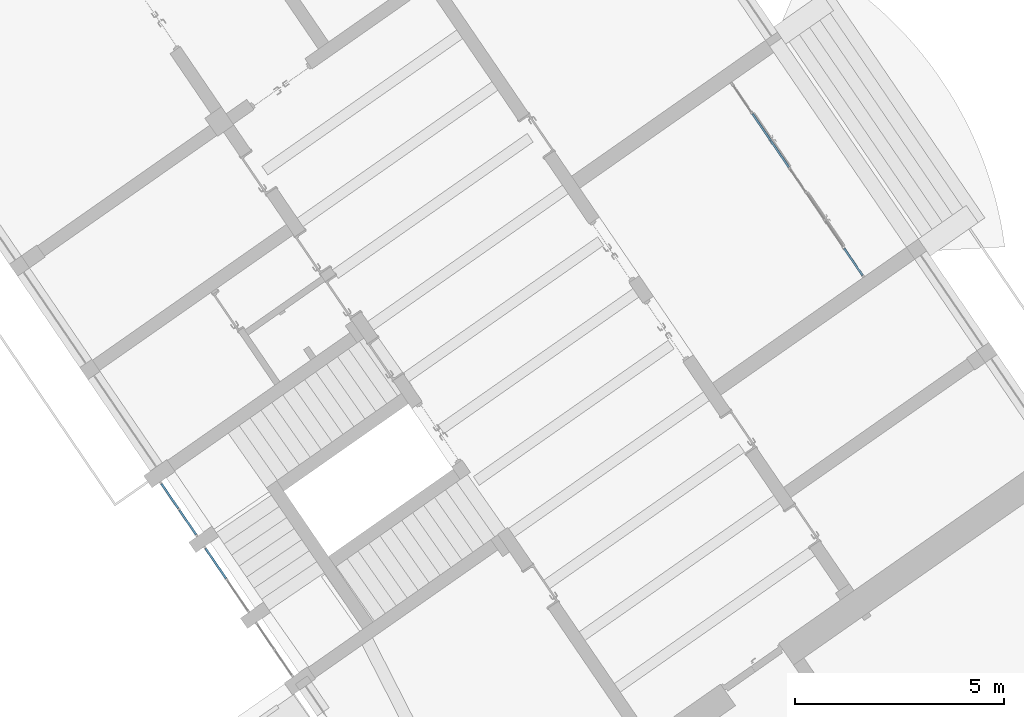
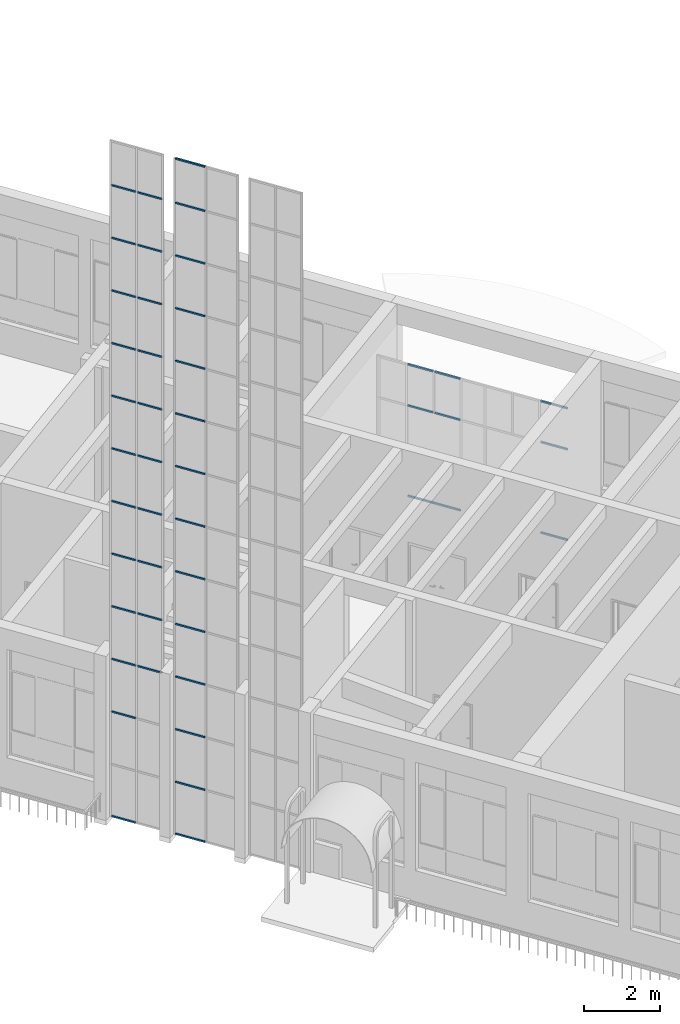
# One storey, part 32 of 157: 45 members, 3 elements without a shape of their own.
"""IFC2X3 building model written with IfcOpenShell, lengths in millimetres."""

from ifc_helpers import new_model, entity, si_unit, converted_unit, derived_unit, direction, frame, origin, origin_2d_with_axis, place, context, subcontext, project, spatial, rectangle, extrude, source, transform, mapped, material, type_object, type_shapes, element, aggregate, save


model = new_model("IFC2X3")

# Units and contexts
model_context = context("Model", 3, precision=0.01, world=origin(), true_north=direction((6.123031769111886e-17, 1.0)))
body_context = subcontext(model_context, "Body", "Model", "MODEL_VIEW")
ifc_project = project(units=[si_unit("LENGTHUNIT", "METRE", prefix="MILLI"), si_unit("AREAUNIT", "SQUARE_METRE"), si_unit("VOLUMEUNIT", "CUBIC_METRE"), converted_unit("PLANEANGLEUNIT", "DEGREE", entity("IfcRatioMeasure", 0.017453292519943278), si_unit("PLANEANGLEUNIT", "RADIAN"), dimensions=[0, 0, 0, 0, 0, 0, 0]), si_unit("MASSUNIT", "GRAM", prefix="KILO"), derived_unit("MASSDENSITYUNIT", [(si_unit("MASSUNIT", "GRAM", prefix="KILO"), 1), (si_unit("LENGTHUNIT", "METRE"), -3)]), derived_unit("MOMENTOFINERTIAUNIT", [(si_unit("LENGTHUNIT", "METRE"), 4)]), si_unit("TIMEUNIT", "SECOND"), si_unit("FREQUENCYUNIT", "HERTZ"), si_unit("THERMODYNAMICTEMPERATUREUNIT", "DEGREE_CELSIUS"), derived_unit("THERMALTRANSMITTANCEUNIT", [(si_unit("MASSUNIT", "GRAM", prefix="KILO"), 1), (si_unit("THERMODYNAMICTEMPERATUREUNIT", "KELVIN"), -1), (si_unit("TIMEUNIT", "SECOND"), -3)]), derived_unit("THERMALCONDUCTANCEUNIT", [(si_unit("MASSUNIT", "GRAM", prefix="KILO"), 1), (si_unit("LENGTHUNIT", "METRE"), 1), (si_unit("THERMODYNAMICTEMPERATUREUNIT", "KELVIN"), -1), (si_unit("TIMEUNIT", "SECOND"), -3)]), derived_unit("VOLUMETRICFLOWRATEUNIT", [(si_unit("LENGTHUNIT", "METRE"), 3), (si_unit("TIMEUNIT", "SECOND"), -1)]), derived_unit("MASSFLOWRATEUNIT", [(si_unit("MASSUNIT", "GRAM", prefix="KILO"), 1), (si_unit("TIMEUNIT", "SECOND"), -1)]), derived_unit("ROTATIONALFREQUENCYUNIT", [(si_unit("TIMEUNIT", "SECOND"), -1)]), si_unit("ELECTRICCURRENTUNIT", "AMPERE"), si_unit("ELECTRICVOLTAGEUNIT", "VOLT"), si_unit("POWERUNIT", "WATT"), converted_unit("FORCEUNIT", "KIP", entity("IfcRatioMeasure", 2.088543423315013e-05), si_unit("FORCEUNIT", "NEWTON"), dimensions=[1, 1, -2, 0, 0, 0, 0]), si_unit("ILLUMINANCEUNIT", "LUX"), si_unit("LUMINOUSFLUXUNIT", "LUMEN"), si_unit("LUMINOUSINTENSITYUNIT", "CANDELA"), derived_unit("USERDEFINED", [(si_unit("MASSUNIT", "GRAM", prefix="KILO"), -1), (si_unit("LENGTHUNIT", "METRE"), -2), (si_unit("TIMEUNIT", "SECOND"), 3), (si_unit("LUMINOUSFLUXUNIT", "LUMEN"), 1)]), derived_unit("USERDEFINED", [(si_unit("MASSUNIT", "GRAM", prefix="KILO"), 1), (si_unit("LENGTHUNIT", "METRE"), 3), (si_unit("TIMEUNIT", "SECOND"), -3), (si_unit("ELECTRICCURRENTUNIT", "AMPERE"), -2)]), derived_unit("USERDEFINED", [(si_unit("LENGTHUNIT", "METRE"), 2), (si_unit("TIMEUNIT", "SECOND"), -2)]), derived_unit("SOUNDPOWERUNIT", [(si_unit("MASSUNIT", "GRAM", prefix="KILO"), 1), (si_unit("LENGTHUNIT", "METRE"), 2), (si_unit("TIMEUNIT", "SECOND"), -3)]), derived_unit("SOUNDPRESSUREUNIT", [(si_unit("MASSUNIT", "GRAM", prefix="KILO"), 1), (si_unit("LENGTHUNIT", "METRE"), -1), (si_unit("TIMEUNIT", "SECOND"), -2)]), derived_unit("LINEARVELOCITYUNIT", [(si_unit("LENGTHUNIT", "METRE"), 1), (si_unit("TIMEUNIT", "SECOND"), -1)]), si_unit("PRESSUREUNIT", "PASCAL"), derived_unit("USERDEFINED", [(si_unit("LENGTHUNIT", "METRE"), -2), (si_unit("MASSUNIT", "GRAM", prefix="KILO"), 1), (si_unit("TIMEUNIT", "SECOND"), -2)]), derived_unit("LINEARFORCEUNIT", [(si_unit("MASSUNIT", "GRAM", prefix="KILO"), 1), (si_unit("LENGTHUNIT", "METRE"), 1), (si_unit("TIMEUNIT", "SECOND"), -2), (si_unit("LENGTHUNIT", "METRE"), -1)]), derived_unit("PLANARFORCEUNIT", [(si_unit("MASSUNIT", "GRAM", prefix="KILO"), 1), (si_unit("LENGTHUNIT", "METRE"), 1), (si_unit("TIMEUNIT", "SECOND"), -2), (si_unit("LENGTHUNIT", "METRE"), -2)]), derived_unit("SPECIFICHEATCAPACITYUNIT", [(si_unit("LENGTHUNIT", "METRE"), 2), (si_unit("TIMEUNIT", "SECOND"), -2), (si_unit("THERMODYNAMICTEMPERATUREUNIT", "KELVIN"), -1)]), derived_unit("VAPORPERMEABILITYUNIT", [(si_unit("TIMEUNIT", "SECOND"), 1), (si_unit("LENGTHUNIT", "METRE"), -1)]), derived_unit("DYNAMICVISCOSITYUNIT", [(si_unit("MASSUNIT", "GRAM", prefix="KILO"), 1), (si_unit("LENGTHUNIT", "METRE"), -1), (si_unit("TIMEUNIT", "SECOND"), -1)]), derived_unit("THERMALEXPANSIONCOEFFICIENTUNIT", [(si_unit("THERMODYNAMICTEMPERATUREUNIT", "KELVIN"), -1)])], contexts=[model_context])

# Site, building, storey
site_placement = place(None, frame((0.0, 0.0, 0.0), z_axis=(0.0, 0.0, 1.0), x_axis=(0.8191520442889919, 0.5735764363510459, 0.0)))
site = spatial("IfcSite", under=ifc_project, at=site_placement, Name="Default", CompositionType="ELEMENT")
building_placement = place(site_placement, origin())
building = spatial("IfcBuilding", under=site, at=building_placement, CompositionType="ELEMENT")
storey_placement = place(building_placement, origin())
storey = spatial("IfcBuildingStorey", under=building, at=storey_placement, Name="1.EG +0.00", CompositionType="ELEMENT", Elevation=-4.331468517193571e-12)

# Curtain wall, members
curtain_wall_type_1 = type_object("IfcCurtainWallType", Name="Curtain Wall:Curtain_Wall_CJC 2", PredefinedType="NOTDEFINED")
curtain_wall_1_placement = place(storey_placement, origin())
curtain_wall_1 = element("IfcCurtainWall", 1, at=curtain_wall_1_placement, inside=storey, type_object=curtain_wall_type_1, Name="Curtain Wall:Curtain_Wall_CJC 2", ObjectType="Curtain Wall:Curtain_Wall_CJC 2")
ifc_material = material(Name="Aluminium")
member_type_1 = type_object("IfcMemberType", Name="Rectangular Mullion:5x5", PredefinedType="MULLION", material=ifc_material)
shared_shape_1 = source(origin(), body_context, "Body", "SweptSolid", [
    extrude(rectangle(XDim=50.000000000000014, YDim=50.0, at=origin_2d_with_axis()), frame((-25.0, 0.0, -875.0769794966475), z_axis=(0.0, 0.0, 1.0), x_axis=(0.0, -1.0, 0.0)), (0.0, 0.0, 1.0), 875.0769794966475),
])
type_shapes(member_type_1, [shared_shape_1])
member_1_placement = place(curtain_wall_1_placement, frame((-223075.04081951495, 113595.23599748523, 21850.0), z_axis=(0.012729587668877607, 0.9999189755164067, 0.0), x_axis=(0.0, 0.0, 1.0)))
member_1 = element("IfcMember", 2, at=member_1_placement, type_object=member_type_1, material=ifc_material, Name="Rectangular Mullion:5x5", ObjectType="Rectangular Mullion:5x5", context=body_context, shape_type="MappedRepresentation", body=[
    mapped(shared_shape_1, transform((0.0, 0.0, 0.0), scale=1.0)),
])
member_type_2 = type_object("IfcMemberType", Name="Rectangular Mullion:5x5", PredefinedType="MULLION", material=ifc_material)
shared_shape_2 = source(origin(), body_context, "Body", "SweptSolid", [
    extrude(rectangle(XDim=50.0, YDim=50.0, at=origin_2d_with_axis()), frame((0.0, 0.0, -875.0769794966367), z_axis=(0.0, 0.0, 1.0), x_axis=(0.0, -1.0, 0.0)), (0.0, 0.0, 1.0), 875.0769794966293),
])
type_shapes(member_type_2, [shared_shape_2])
member_2_placement = place(curtain_wall_1_placement, frame((-223075.04081951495, 113595.23599748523, 1700.0), z_axis=(0.012729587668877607, 0.9999189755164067, 0.0), x_axis=(0.0, 0.0, 1.0)))
member_2 = element("IfcMember", 3, at=member_2_placement, type_object=member_type_2, material=ifc_material, Name="Rectangular Mullion:5x5", ObjectType="Rectangular Mullion:5x5", context=body_context, shape_type="MappedRepresentation", body=[
    mapped(shared_shape_2, transform((0.0, 0.0, 0.0), scale=1.0)),
])
member_3_placement = place(curtain_wall_1_placement, frame((-223075.04081951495, 113595.23599748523, 3400.0), z_axis=(0.012729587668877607, 0.9999189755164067, 0.0), x_axis=(0.0, 0.0, 1.0)))
member_3 = element("IfcMember", 4, at=member_3_placement, type_object=member_type_2, material=ifc_material, Name="Rectangular Mullion:5x5", ObjectType="Rectangular Mullion:5x5", context=body_context, shape_type="MappedRepresentation", body=[
    mapped(shared_shape_2, transform((0.0, 0.0, 0.0), scale=1.0)),
])
member_4_placement = place(curtain_wall_1_placement, frame((-223075.04081951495, 113595.23599748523, 5100.0), z_axis=(0.012729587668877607, 0.9999189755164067, 0.0), x_axis=(0.0, 0.0, 1.0)))
member_4 = element("IfcMember", 5, at=member_4_placement, type_object=member_type_2, material=ifc_material, Name="Rectangular Mullion:5x5", ObjectType="Rectangular Mullion:5x5", context=body_context, shape_type="MappedRepresentation", body=[
    mapped(shared_shape_2, transform((0.0, 0.0, 0.0), scale=1.0)),
])
member_5_placement = place(curtain_wall_1_placement, frame((-223075.04081951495, 113595.23599748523, 6800.0), z_axis=(0.012729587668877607, 0.9999189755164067, 0.0), x_axis=(0.0, 0.0, 1.0)))
member_5 = element("IfcMember", 6, at=member_5_placement, type_object=member_type_2, material=ifc_material, Name="Rectangular Mullion:5x5", ObjectType="Rectangular Mullion:5x5", context=body_context, shape_type="MappedRepresentation", body=[
    mapped(shared_shape_2, transform((0.0, 0.0, 0.0), scale=1.0)),
])
member_6_placement = place(curtain_wall_1_placement, frame((-223075.04081951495, 113595.23599748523, 8500.0), z_axis=(0.012729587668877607, 0.9999189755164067, 0.0), x_axis=(0.0, 0.0, 1.0)))
member_6 = element("IfcMember", 7, at=member_6_placement, type_object=member_type_2, material=ifc_material, Name="Rectangular Mullion:5x5", ObjectType="Rectangular Mullion:5x5", context=body_context, shape_type="MappedRepresentation", body=[
    mapped(shared_shape_2, transform((0.0, 0.0, 0.0), scale=1.0)),
])
member_7_placement = place(curtain_wall_1_placement, frame((-223075.04081951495, 113595.23599748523, 10200.0), z_axis=(0.012729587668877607, 0.9999189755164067, 0.0), x_axis=(0.0, 0.0, 1.0)))
member_7 = element("IfcMember", 8, at=member_7_placement, type_object=member_type_2, material=ifc_material, Name="Rectangular Mullion:5x5", ObjectType="Rectangular Mullion:5x5", context=body_context, shape_type="MappedRepresentation", body=[
    mapped(shared_shape_2, transform((0.0, 0.0, 0.0), scale=1.0)),
])
member_8_placement = place(curtain_wall_1_placement, frame((-223075.04081951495, 113595.23599748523, 11900.0), z_axis=(0.012729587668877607, 0.9999189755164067, 0.0), x_axis=(0.0, 0.0, 1.0)))
member_8 = element("IfcMember", 9, at=member_8_placement, type_object=member_type_2, material=ifc_material, Name="Rectangular Mullion:5x5", ObjectType="Rectangular Mullion:5x5", context=body_context, shape_type="MappedRepresentation", body=[
    mapped(shared_shape_2, transform((0.0, 0.0, 0.0), scale=1.0)),
])
member_9_placement = place(curtain_wall_1_placement, frame((-223075.04081951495, 113595.23599748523, 13600.0), z_axis=(0.012729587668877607, 0.9999189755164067, 0.0), x_axis=(0.0, 0.0, 1.0)))
member_9 = element("IfcMember", 10, at=member_9_placement, type_object=member_type_2, material=ifc_material, Name="Rectangular Mullion:5x5", ObjectType="Rectangular Mullion:5x5", context=body_context, shape_type="MappedRepresentation", body=[
    mapped(shared_shape_2, transform((0.0, 0.0, 0.0), scale=1.0)),
])
member_10_placement = place(curtain_wall_1_placement, frame((-223075.04081951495, 113595.23599748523, 15300.0), z_axis=(0.012729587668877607, 0.9999189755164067, 0.0), x_axis=(0.0, 0.0, 1.0)))
member_10 = element("IfcMember", 11, at=member_10_placement, type_object=member_type_2, material=ifc_material, Name="Rectangular Mullion:5x5", ObjectType="Rectangular Mullion:5x5", context=body_context, shape_type="MappedRepresentation", body=[
    mapped(shared_shape_2, transform((0.0, 0.0, 0.0), scale=1.0)),
])
member_11_placement = place(curtain_wall_1_placement, frame((-223075.04081951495, 113595.23599748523, 17000.0), z_axis=(0.012729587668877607, 0.9999189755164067, 0.0), x_axis=(0.0, 0.0, 1.0)))
member_11 = element("IfcMember", 12, at=member_11_placement, type_object=member_type_2, material=ifc_material, Name="Rectangular Mullion:5x5", ObjectType="Rectangular Mullion:5x5", context=body_context, shape_type="MappedRepresentation", body=[
    mapped(shared_shape_2, transform((0.0, 0.0, 0.0), scale=1.0)),
])
member_12_placement = place(curtain_wall_1_placement, frame((-223075.04081951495, 113595.23599748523, 18700.0), z_axis=(0.012729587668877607, 0.9999189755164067, 0.0), x_axis=(0.0, 0.0, 1.0)))
member_12 = element("IfcMember", 13, at=member_12_placement, type_object=member_type_2, material=ifc_material, Name="Rectangular Mullion:5x5", ObjectType="Rectangular Mullion:5x5", context=body_context, shape_type="MappedRepresentation", body=[
    mapped(shared_shape_2, transform((0.0, 0.0, 0.0), scale=1.0)),
])
member_13_placement = place(curtain_wall_1_placement, frame((-223075.04081951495, 113595.23599748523, 20400.0), z_axis=(0.012729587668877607, 0.9999189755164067, 0.0), x_axis=(0.0, 0.0, 1.0)))
member_13 = element("IfcMember", 14, at=member_13_placement, type_object=member_type_2, material=ifc_material, Name="Rectangular Mullion:5x5", ObjectType="Rectangular Mullion:5x5", context=body_context, shape_type="MappedRepresentation", body=[
    mapped(shared_shape_2, transform((0.0, 0.0, 0.0), scale=1.0)),
])
member_type_3 = type_object("IfcMemberType", Name="Rectangular Mullion:5x5", PredefinedType="MULLION", material=ifc_material)
shared_shape_3 = source(origin(), body_context, "Body", "SweptSolid", [
    extrude(rectangle(XDim=49.99999999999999, YDim=50.0, at=origin_2d_with_axis()), frame((-25.0, 0.0, -875.0769794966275), z_axis=(0.0, 0.0, 1.0), x_axis=(0.0, -1.0, 0.0)), (0.0, 0.0, 1.0), 875.0769794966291),
])
type_shapes(member_type_3, [shared_shape_3])
member_14_placement = place(curtain_wall_1_placement, frame((-223086.18018864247, 112720.22992064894, 0.0), z_axis=(-0.012729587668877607, -0.9999189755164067, 0.0), x_axis=(0.0, 0.0, -1.0)))
member_14 = element("IfcMember", 15, at=member_14_placement, type_object=member_type_3, material=ifc_material, Name="Rectangular Mullion:5x5", ObjectType="Rectangular Mullion:5x5", context=body_context, shape_type="MappedRepresentation", body=[
    mapped(shared_shape_3, transform((0.0, 0.0, 0.0), scale=1.0)),
])
aggregate(curtain_wall_1, [member_1, member_2, member_14, member_3, member_4, member_5, member_6, member_7, member_8, member_9, member_10, member_11, member_12, member_13])

curtain_wall_type_2 = type_object("IfcCurtainWallType", Name="Curtain Wall:Curtain_Wall_CJC", PredefinedType="NOTDEFINED")
curtain_wall_2_placement = place(storey_placement, origin())
curtain_wall_2 = element("IfcCurtainWall", 16, at=curtain_wall_2_placement, inside=storey, type_object=curtain_wall_type_2, Name="Curtain Wall:Curtain_Wall_CJC", ObjectType="Curtain Wall:Curtain_Wall_CJC")
member_type_4 = type_object("IfcMemberType", Name="Rectangular Mullion:5x5", PredefinedType="MULLION", material=ifc_material)
shared_shape_4 = source(origin(), body_context, "Body", "SweptSolid", [
    extrude(rectangle(XDim=50.0, YDim=50.0, at=origin_2d_with_axis()), frame((0.0, 0.0, -713.1273416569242), z_axis=(0.0, 0.0, 1.0), x_axis=(0.0, -1.0, 0.0)), (0.0, 0.0, 1.0), 713.1273416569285),
])
type_shapes(member_type_4, [shared_shape_4])
member_15_placement = place(curtain_wall_2_placement, frame((-223051.15656158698, 115471.36296557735, 3400.0), z_axis=(0.012729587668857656, 0.999918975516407, 0.0), x_axis=(0.0, 0.0, 1.0)))
member_15 = element("IfcMember", 17, at=member_15_placement, type_object=member_type_4, material=ifc_material, Name="Rectangular Mullion:5x5", ObjectType="Rectangular Mullion:5x5", context=body_context, shape_type="MappedRepresentation", body=[
    mapped(shared_shape_4, transform((0.0, 0.0, 0.0), scale=1.0)),
])
member_16_placement = place(curtain_wall_2_placement, frame((-223060.87085798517, 114708.29745591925, 5100.0), z_axis=(0.012729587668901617, 0.9999189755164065, 0.0), x_axis=(0.0, 0.0, 1.0)))
member_16 = element("IfcMember", 18, at=member_16_placement, type_object=member_type_4, material=ifc_material, Name="Rectangular Mullion:5x5", ObjectType="Rectangular Mullion:5x5", context=body_context, shape_type="MappedRepresentation", body=[
    mapped(shared_shape_4, transform((0.0, 0.0, 0.0), scale=1.0)),
])
member_17_placement = place(curtain_wall_2_placement, frame((-223051.15656158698, 115471.36296557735, 5100.0), z_axis=(0.012729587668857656, 0.999918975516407, 0.0), x_axis=(0.0, 0.0, 1.0)))
member_17 = element("IfcMember", 19, at=member_17_placement, type_object=member_type_4, material=ifc_material, Name="Rectangular Mullion:5x5", ObjectType="Rectangular Mullion:5x5", context=body_context, shape_type="MappedRepresentation", body=[
    mapped(shared_shape_4, transform((0.0, 0.0, 0.0), scale=1.0)),
])
member_18_placement = place(curtain_wall_2_placement, frame((-223060.87085798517, 114708.29745591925, 6800.0), z_axis=(0.012729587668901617, 0.9999189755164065, 0.0), x_axis=(0.0, 0.0, 1.0)))
member_18 = element("IfcMember", 20, at=member_18_placement, type_object=member_type_4, material=ifc_material, Name="Rectangular Mullion:5x5", ObjectType="Rectangular Mullion:5x5", context=body_context, shape_type="MappedRepresentation", body=[
    mapped(shared_shape_4, transform((0.0, 0.0, 0.0), scale=1.0)),
])
member_19_placement = place(curtain_wall_2_placement, frame((-223051.15656158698, 115471.36296557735, 6800.0), z_axis=(0.012729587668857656, 0.999918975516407, 0.0), x_axis=(0.0, 0.0, 1.0)))
member_19 = element("IfcMember", 21, at=member_19_placement, type_object=member_type_4, material=ifc_material, Name="Rectangular Mullion:5x5", ObjectType="Rectangular Mullion:5x5", context=body_context, shape_type="MappedRepresentation", body=[
    mapped(shared_shape_4, transform((0.0, 0.0, 0.0), scale=1.0)),
])
member_20_placement = place(curtain_wall_2_placement, frame((-223060.87085798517, 114708.29745591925, 8500.0), z_axis=(0.012729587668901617, 0.9999189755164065, 0.0), x_axis=(0.0, 0.0, 1.0)))
member_20 = element("IfcMember", 22, at=member_20_placement, type_object=member_type_4, material=ifc_material, Name="Rectangular Mullion:5x5", ObjectType="Rectangular Mullion:5x5", context=body_context, shape_type="MappedRepresentation", body=[
    mapped(shared_shape_4, transform((0.0, 0.0, 0.0), scale=1.0)),
])
member_21_placement = place(curtain_wall_2_placement, frame((-223051.15656158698, 115471.36296557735, 8500.0), z_axis=(0.012729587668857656, 0.999918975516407, 0.0), x_axis=(0.0, 0.0, 1.0)))
member_21 = element("IfcMember", 23, at=member_21_placement, type_object=member_type_4, material=ifc_material, Name="Rectangular Mullion:5x5", ObjectType="Rectangular Mullion:5x5", context=body_context, shape_type="MappedRepresentation", body=[
    mapped(shared_shape_4, transform((0.0, 0.0, 0.0), scale=1.0)),
])
member_22_placement = place(curtain_wall_2_placement, frame((-223060.87085798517, 114708.29745591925, 10200.0), z_axis=(0.012729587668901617, 0.9999189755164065, 0.0), x_axis=(0.0, 0.0, 1.0)))
member_22 = element("IfcMember", 24, at=member_22_placement, type_object=member_type_4, material=ifc_material, Name="Rectangular Mullion:5x5", ObjectType="Rectangular Mullion:5x5", context=body_context, shape_type="MappedRepresentation", body=[
    mapped(shared_shape_4, transform((0.0, 0.0, 0.0), scale=1.0)),
])
member_23_placement = place(curtain_wall_2_placement, frame((-223051.15656158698, 115471.36296557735, 10200.0), z_axis=(0.012729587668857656, 0.999918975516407, 0.0), x_axis=(0.0, 0.0, 1.0)))
member_23 = element("IfcMember", 25, at=member_23_placement, type_object=member_type_4, material=ifc_material, Name="Rectangular Mullion:5x5", ObjectType="Rectangular Mullion:5x5", context=body_context, shape_type="MappedRepresentation", body=[
    mapped(shared_shape_4, transform((0.0, 0.0, 0.0), scale=1.0)),
])
member_24_placement = place(curtain_wall_2_placement, frame((-223060.87085798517, 114708.29745591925, 11900.0), z_axis=(0.012729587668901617, 0.9999189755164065, 0.0), x_axis=(0.0, 0.0, 1.0)))
member_24 = element("IfcMember", 26, at=member_24_placement, type_object=member_type_4, material=ifc_material, Name="Rectangular Mullion:5x5", ObjectType="Rectangular Mullion:5x5", context=body_context, shape_type="MappedRepresentation", body=[
    mapped(shared_shape_4, transform((0.0, 0.0, 0.0), scale=1.0)),
])
member_25_placement = place(curtain_wall_2_placement, frame((-223051.15656158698, 115471.36296557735, 11900.0), z_axis=(0.012729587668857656, 0.999918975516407, 0.0), x_axis=(0.0, 0.0, 1.0)))
member_25 = element("IfcMember", 27, at=member_25_placement, type_object=member_type_4, material=ifc_material, Name="Rectangular Mullion:5x5", ObjectType="Rectangular Mullion:5x5", context=body_context, shape_type="MappedRepresentation", body=[
    mapped(shared_shape_4, transform((0.0, 0.0, 0.0), scale=1.0)),
])
member_26_placement = place(curtain_wall_2_placement, frame((-223060.87085798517, 114708.29745591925, 13600.0), z_axis=(0.012729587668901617, 0.9999189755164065, 0.0), x_axis=(0.0, 0.0, 1.0)))
member_26 = element("IfcMember", 28, at=member_26_placement, type_object=member_type_4, material=ifc_material, Name="Rectangular Mullion:5x5", ObjectType="Rectangular Mullion:5x5", context=body_context, shape_type="MappedRepresentation", body=[
    mapped(shared_shape_4, transform((0.0, 0.0, 0.0), scale=1.0)),
])
member_27_placement = place(curtain_wall_2_placement, frame((-223051.15656158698, 115471.36296557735, 13600.0), z_axis=(0.012729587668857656, 0.999918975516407, 0.0), x_axis=(0.0, 0.0, 1.0)))
member_27 = element("IfcMember", 29, at=member_27_placement, type_object=member_type_4, material=ifc_material, Name="Rectangular Mullion:5x5", ObjectType="Rectangular Mullion:5x5", context=body_context, shape_type="MappedRepresentation", body=[
    mapped(shared_shape_4, transform((0.0, 0.0, 0.0), scale=1.0)),
])
member_28_placement = place(curtain_wall_2_placement, frame((-223060.87085798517, 114708.29745591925, 15300.0), z_axis=(0.012729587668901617, 0.9999189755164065, 0.0), x_axis=(0.0, 0.0, 1.0)))
member_28 = element("IfcMember", 30, at=member_28_placement, type_object=member_type_4, material=ifc_material, Name="Rectangular Mullion:5x5", ObjectType="Rectangular Mullion:5x5", context=body_context, shape_type="MappedRepresentation", body=[
    mapped(shared_shape_4, transform((0.0, 0.0, 0.0), scale=1.0)),
])
member_29_placement = place(curtain_wall_2_placement, frame((-223051.15656158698, 115471.36296557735, 15300.0), z_axis=(0.012729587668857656, 0.999918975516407, 0.0), x_axis=(0.0, 0.0, 1.0)))
member_29 = element("IfcMember", 31, at=member_29_placement, type_object=member_type_4, material=ifc_material, Name="Rectangular Mullion:5x5", ObjectType="Rectangular Mullion:5x5", context=body_context, shape_type="MappedRepresentation", body=[
    mapped(shared_shape_4, transform((0.0, 0.0, 0.0), scale=1.0)),
])
member_30_placement = place(curtain_wall_2_placement, frame((-223060.87085798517, 114708.29745591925, 17000.0), z_axis=(0.012729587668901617, 0.9999189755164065, 0.0), x_axis=(0.0, 0.0, 1.0)))
member_30 = element("IfcMember", 32, at=member_30_placement, type_object=member_type_4, material=ifc_material, Name="Rectangular Mullion:5x5", ObjectType="Rectangular Mullion:5x5", context=body_context, shape_type="MappedRepresentation", body=[
    mapped(shared_shape_4, transform((0.0, 0.0, 0.0), scale=1.0)),
])
member_31_placement = place(curtain_wall_2_placement, frame((-223051.15656158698, 115471.36296557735, 17000.0), z_axis=(0.012729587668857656, 0.999918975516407, 0.0), x_axis=(0.0, 0.0, 1.0)))
member_31 = element("IfcMember", 33, at=member_31_placement, type_object=member_type_4, material=ifc_material, Name="Rectangular Mullion:5x5", ObjectType="Rectangular Mullion:5x5", context=body_context, shape_type="MappedRepresentation", body=[
    mapped(shared_shape_4, transform((0.0, 0.0, 0.0), scale=1.0)),
])
member_32_placement = place(curtain_wall_2_placement, frame((-223060.87085798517, 114708.29745591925, 18700.0), z_axis=(0.012729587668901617, 0.9999189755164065, 0.0), x_axis=(0.0, 0.0, 1.0)))
member_32 = element("IfcMember", 34, at=member_32_placement, type_object=member_type_4, material=ifc_material, Name="Rectangular Mullion:5x5", ObjectType="Rectangular Mullion:5x5", context=body_context, shape_type="MappedRepresentation", body=[
    mapped(shared_shape_4, transform((0.0, 0.0, 0.0), scale=1.0)),
])
member_33_placement = place(curtain_wall_2_placement, frame((-223051.15656158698, 115471.36296557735, 18700.0), z_axis=(0.012729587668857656, 0.999918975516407, 0.0), x_axis=(0.0, 0.0, 1.0)))
member_33 = element("IfcMember", 35, at=member_33_placement, type_object=member_type_4, material=ifc_material, Name="Rectangular Mullion:5x5", ObjectType="Rectangular Mullion:5x5", context=body_context, shape_type="MappedRepresentation", body=[
    mapped(shared_shape_4, transform((0.0, 0.0, 0.0), scale=1.0)),
])
member_34_placement = place(curtain_wall_2_placement, frame((-223060.87085798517, 114708.29745591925, 20400.0), z_axis=(0.012729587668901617, 0.9999189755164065, 0.0), x_axis=(0.0, 0.0, 1.0)))
member_34 = element("IfcMember", 36, at=member_34_placement, type_object=member_type_4, material=ifc_material, Name="Rectangular Mullion:5x5", ObjectType="Rectangular Mullion:5x5", context=body_context, shape_type="MappedRepresentation", body=[
    mapped(shared_shape_4, transform((0.0, 0.0, 0.0), scale=1.0)),
])
member_35_placement = place(curtain_wall_2_placement, frame((-223051.15656158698, 115471.36296557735, 20400.0), z_axis=(0.012729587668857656, 0.999918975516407, 0.0), x_axis=(0.0, 0.0, 1.0)))
member_35 = element("IfcMember", 37, at=member_35_placement, type_object=member_type_4, material=ifc_material, Name="Rectangular Mullion:5x5", ObjectType="Rectangular Mullion:5x5", context=body_context, shape_type="MappedRepresentation", body=[
    mapped(shared_shape_4, transform((0.0, 0.0, 0.0), scale=1.0)),
])
member_type_5 = type_object("IfcMemberType", Name="Rectangular Mullion:5x5", PredefinedType="MULLION", material=ifc_material)
shared_shape_5 = source(origin(), body_context, "Body", "SweptSolid", [
    extrude(rectangle(XDim=49.99999999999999, YDim=50.0, at=origin_2d_with_axis()), frame((-25.0, 0.0, -713.127341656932), z_axis=(0.0, 0.0, 1.0), x_axis=(0.0, -1.0, 0.0)), (0.0, 0.0, 1.0), 713.1273416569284),
])
type_shapes(member_type_5, [shared_shape_5])
member_36_placement = place(curtain_wall_2_placement, frame((-223060.23437860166, 114758.29340469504, 0.0), z_axis=(-0.012729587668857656, -0.999918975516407, 0.0), x_axis=(0.0, 0.0, -1.0)))
member_36 = element("IfcMember", 38, at=member_36_placement, type_object=member_type_5, material=ifc_material, Name="Rectangular Mullion:5x5", ObjectType="Rectangular Mullion:5x5", context=body_context, shape_type="MappedRepresentation", body=[
    mapped(shared_shape_5, transform((0.0, 0.0, 0.0), scale=1.0)),
])
aggregate(curtain_wall_2, [member_36, member_15, member_16, member_17, member_18, member_19, member_20, member_21, member_22, member_23, member_24, member_25, member_26, member_27, member_28, member_29, member_30, member_31, member_32, member_33, member_34, member_35])

curtain_wall_type_3 = type_object("IfcCurtainWallType", Name="Curtain Wall:Curtain_Wall_CJC_ENTR1", PredefinedType="NOTDEFINED")
curtain_wall_3_placement = place(storey_placement, origin())
curtain_wall_3 = element("IfcCurtainWall", 39, at=curtain_wall_3_placement, inside=storey, type_object=curtain_wall_type_3, Name="Curtain Wall:Curtain_Wall_CJC_ENTR1", ObjectType="Curtain Wall:Curtain_Wall_CJC_ENTR1")
member_type_6 = type_object("IfcMemberType", Name="Rectangular Mullion:5x5", PredefinedType="MULLION", material=ifc_material)
shared_shape_6 = source(origin(), body_context, "Body", "SweptSolid", [
    extrude(rectangle(XDim=50.000000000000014, YDim=50.0, at=origin_2d_with_axis()), frame((-25.0, 0.0, -750.0), z_axis=(0.0, 0.0, 1.0), x_axis=(0.0, -1.0, 0.0)), (0.0, 0.0, 1.0), 749.9999999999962),
])
type_shapes(member_type_6, [shared_shape_6])
member_37_placement = place(curtain_wall_3_placement, frame((-206370.97501987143, 113811.04019752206, 4300.0), z_axis=(0.01271922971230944, 0.9999191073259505, 0.0), x_axis=(0.0, 0.0, 1.0)))
member_37 = element("IfcMember", 40, at=member_37_placement, type_object=member_type_6, material=ifc_material, Name="Rectangular Mullion:5x5", ObjectType="Rectangular Mullion:5x5", context=body_context, shape_type="MappedRepresentation", body=[
    mapped(shared_shape_6, transform((0.0, 0.0, 0.0), scale=1.0)),
])
member_38_placement = place(curtain_wall_3_placement, frame((-206360.79963610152, 114610.97548338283, 4300.0), z_axis=(0.01271922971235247, 0.9999191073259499, 0.0), x_axis=(0.0, 0.0, 1.0)))
member_38 = element("IfcMember", 41, at=member_38_placement, type_object=member_type_6, material=ifc_material, Name="Rectangular Mullion:5x5", ObjectType="Rectangular Mullion:5x5", context=body_context, shape_type="MappedRepresentation", body=[
    mapped(shared_shape_6, transform((0.0, 0.0, 0.0), scale=1.0)),
])
member_type_7 = type_object("IfcMemberType", Name="Rectangular Mullion:5x5", PredefinedType="MULLION", material=ifc_material)
shared_shape_7 = source(origin(), body_context, "Body", "SweptSolid", [
    extrude(rectangle(XDim=50.000000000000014, YDim=50.0, at=origin_2d_with_axis()), frame((-25.0, 0.0, -785.0), z_axis=(0.0, 0.0, 1.0), x_axis=(0.0, -1.0, 0.0)), (0.0, 0.0, 1.0), 784.999999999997),
])
type_shapes(member_type_7, [shared_shape_7])
member_39_placement = place(curtain_wall_3_placement, frame((-206420.45282345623, 109921.35486971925, 0.0), z_axis=(-0.01271922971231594, -0.9999191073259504, 0.0), x_axis=(0.0, 0.0, -1.0)))
member_39 = element("IfcMember", 42, at=member_39_placement, type_object=member_type_7, material=ifc_material, Name="Rectangular Mullion:5x5", ObjectType="Rectangular Mullion:5x5", context=body_context, shape_type="MappedRepresentation", body=[
    mapped(shared_shape_7, transform((0.0, 0.0, 0.0), scale=1.0)),
])
member_type_8 = type_object("IfcMemberType", Name="Rectangular Mullion:5x5", PredefinedType="MULLION", material=ifc_material)
shared_shape_8 = source(origin(), body_context, "Body", "SweptSolid", [
    extrude(rectangle(XDim=50.000000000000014, YDim=50.0, at=origin_2d_with_axis()), frame((-25.0, 0.0, -775.0), z_axis=(0.0, 0.0, 1.0), x_axis=(0.0, -1.0, 0.0)), (0.0, 0.0, 1.0), 774.9999999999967),
])
type_shapes(member_type_8, [shared_shape_8])
member_40_placement = place(curtain_wall_3_placement, frame((-206370.65703912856, 113836.0381752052, 0.0), z_axis=(-0.01271922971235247, -0.9999191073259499, 0.0), x_axis=(0.0, 0.0, -1.0)))
member_40 = element("IfcMember", 43, at=member_40_placement, type_object=member_type_8, material=ifc_material, Name="Rectangular Mullion:5x5", ObjectType="Rectangular Mullion:5x5", context=body_context, shape_type="MappedRepresentation", body=[
    mapped(shared_shape_8, transform((0.0, 0.0, 0.0), scale=1.0)),
])
member_type_9 = type_object("IfcMemberType", Name="Rectangular Mullion:5x5", PredefinedType="MULLION", material=ifc_material)
shared_shape_9 = source(origin(), body_context, "Body", "SweptSolid", [
    extrude(rectangle(XDim=50.0, YDim=50.0, at=origin_2d_with_axis()), frame((0.0, 0.0, -750.0), z_axis=(0.0, 0.0, 1.0), x_axis=(0.0, -1.0, 0.0)), (0.0, 0.0, 1.0), 749.9999999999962),
])
type_shapes(member_type_9, [shared_shape_9])
member_41_placement = place(curtain_wall_3_placement, frame((-206360.79963610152, 114610.97548338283, 2950.0), z_axis=(0.01271922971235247, 0.9999191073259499, 0.0), x_axis=(0.0, 0.0, 1.0)))
member_41 = element("IfcMember", 44, at=member_41_placement, type_object=member_type_9, material=ifc_material, Name="Rectangular Mullion:5x5", ObjectType="Rectangular Mullion:5x5", context=body_context, shape_type="MappedRepresentation", body=[
    mapped(shared_shape_9, transform((0.0, 0.0, 0.0), scale=1.0)),
])
member_42_placement = place(curtain_wall_3_placement, frame((-206370.97501987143, 113811.04019752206, 2950.0), z_axis=(0.01271922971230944, 0.9999191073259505, 0.0), x_axis=(0.0, 0.0, 1.0)))
member_42 = element("IfcMember", 45, at=member_42_placement, type_object=member_type_9, material=ifc_material, Name="Rectangular Mullion:5x5", ObjectType="Rectangular Mullion:5x5", context=body_context, shape_type="MappedRepresentation", body=[
    mapped(shared_shape_9, transform((0.0, 0.0, 0.0), scale=1.0)),
])
member_type_10 = type_object("IfcMemberType", Name="Rectangular Mullion:5x5", PredefinedType="MULLION", material=ifc_material)
shared_shape_10 = source(origin(), body_context, "Body", "SweptSolid", [
    extrude(rectangle(XDim=50.0, YDim=50.0, at=origin_2d_with_axis()), frame((0.0, 0.0, -785.0), z_axis=(0.0, 0.0, 1.0), x_axis=(0.0, -1.0, 0.0)), (0.0, 0.0, 1.0), 784.9999999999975),
])
type_shapes(member_type_10, [shared_shape_10])
member_43_placement = place(curtain_wall_3_placement, frame((-206410.4682281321, 110706.29136897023, 2950.0), z_axis=(0.01271922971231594, 0.9999191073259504, 0.0), x_axis=(0.0, 0.0, 1.0)))
member_43 = element("IfcMember", 46, at=member_43_placement, type_object=member_type_10, material=ifc_material, Name="Rectangular Mullion:5x5", ObjectType="Rectangular Mullion:5x5", context=body_context, shape_type="MappedRepresentation", body=[
    mapped(shared_shape_10, transform((0.0, 0.0, 0.0), scale=1.0)),
])
member_type_11 = type_object("IfcMemberType", Name="Rectangular Mullion:5x5", PredefinedType="MULLION", material=ifc_material)
shared_shape_11 = source(origin(), body_context, "Body", "SweptSolid", [
    extrude(rectangle(XDim=50.000000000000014, YDim=50.0, at=origin_2d_with_axis()), frame((-25.0, 0.0, -785.0), z_axis=(0.0, 0.0, 1.0), x_axis=(0.0, -1.0, 0.0)), (0.0, 0.0, 1.0), 784.9999999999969),
])
type_shapes(member_type_11, [shared_shape_11])
member_44_placement = place(curtain_wall_3_placement, frame((-206410.4682281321, 110706.29136897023, 4300.0), z_axis=(0.01271922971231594, 0.9999191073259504, 0.0), x_axis=(0.0, 0.0, 1.0)))
member_44 = element("IfcMember", 47, at=member_44_placement, type_object=member_type_11, material=ifc_material, Name="Rectangular Mullion:5x5", ObjectType="Rectangular Mullion:5x5", context=body_context, shape_type="MappedRepresentation", body=[
    mapped(shared_shape_11, transform((0.0, 0.0, 0.0), scale=1.0)),
])
member_type_12 = type_object("IfcMemberType", Name="Rectangular Mullion:5x5", PredefinedType="MULLION", material=ifc_material)
shared_shape_12 = source(origin(), body_context, "Body", "SweptSolid", [
    extrude(rectangle(XDim=50.000000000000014, YDim=50.0, at=origin_2d_with_axis()), frame((-25.0, 0.0, -775.0), z_axis=(0.0, 0.0, 1.0), x_axis=(0.0, -1.0, 0.0)), (0.0, 0.0, 1.0), 774.9999999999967),
])
type_shapes(member_type_12, [shared_shape_12])
member_45_placement = place(curtain_wall_3_placement, frame((-206380.51444215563, 113061.10086702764, 0.0), z_axis=(-0.01271922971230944, -0.9999191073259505, 0.0), x_axis=(0.0, 0.0, -1.0)))
member_45 = element("IfcMember", 48, at=member_45_placement, type_object=member_type_12, material=ifc_material, Name="Rectangular Mullion:5x5", ObjectType="Rectangular Mullion:5x5", context=body_context, shape_type="MappedRepresentation", body=[
    mapped(shared_shape_12, transform((0.0, 0.0, 0.0), scale=1.0)),
])
aggregate(curtain_wall_3, [member_37, member_38, member_39, member_40, member_41, member_43, member_44, member_45, member_42])

save(model, "model.ifc")
